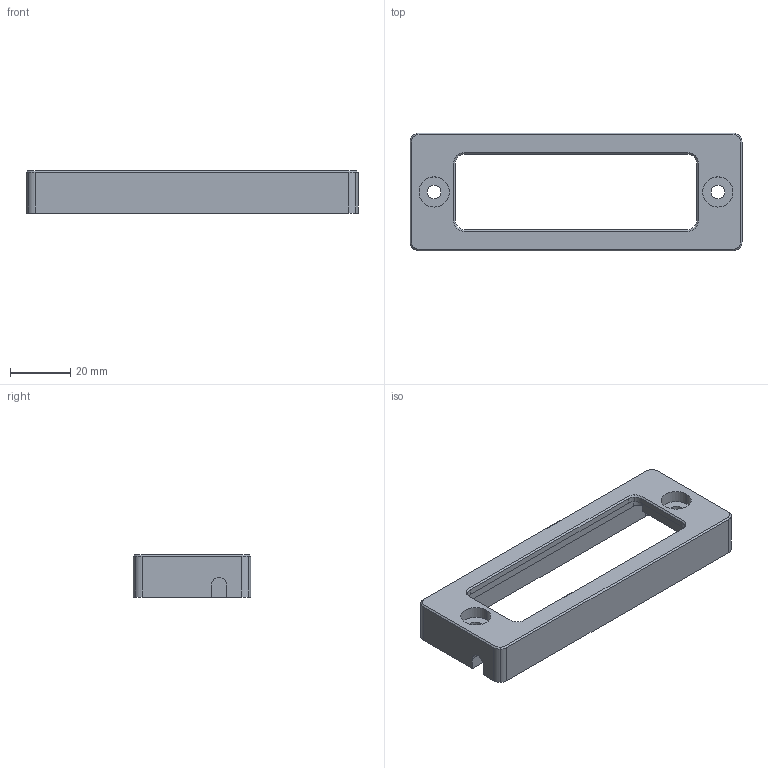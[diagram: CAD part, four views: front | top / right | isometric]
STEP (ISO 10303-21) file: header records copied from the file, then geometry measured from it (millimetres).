
FILE_DESCRIPTION(('STEP AP214'),'1');
FILE_NAME('F:/3D Zeichnungen/Konstruktionszeichnungen neuer Stand/tmp0.step','2023-09-20T10:44:39',(' '),(' '),'Spatial InterOp 3D',' ',' ');
FILE_SCHEMA(('automotive_design'));
Length unit declared in the file: millimetre
Products named in the file (1): 1
Bounding box: 110 x 39 x 14 mm (x, y, z)
Volume: 22504 mm3; surface area: 12126.6 mm2
Topology: 1 solids, 1 shells, 90 faces, 231 edges, 146 vertices
Faces by surface type: cylinder 42, plane 32, cone 16
Entity records: 3499 total; most frequent: DIRECTION 513, CARTESIAN_POINT 468, ORIENTED_EDGE 462, EDGE_CURVE 231, AXIS2_PLACEMENT_3D 191, VERTEX_POINT 146, LINE 131, VECTOR 131
